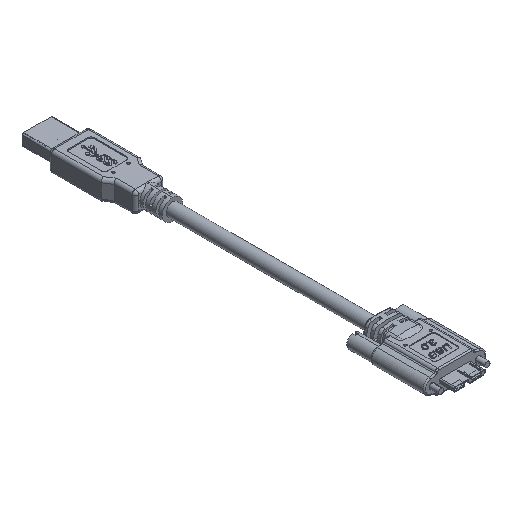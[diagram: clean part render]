
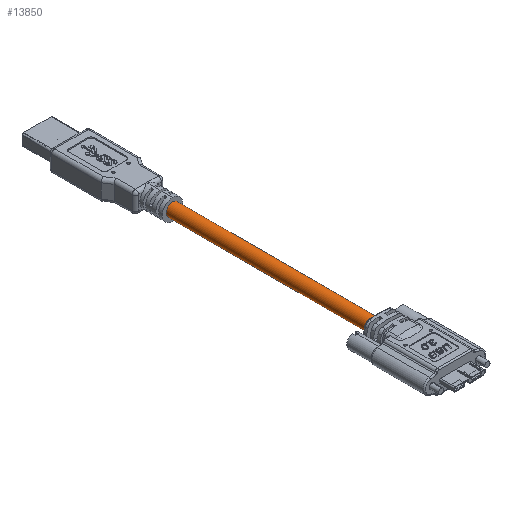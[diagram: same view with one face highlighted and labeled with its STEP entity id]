
A CAD part, isometric view. The second image highlights one B-rep face of the part: STEP entity #13850.
In plain terms, the highlighted cylindrical face has radius 2.5 mm (diameter 5 mm), a partial arc.
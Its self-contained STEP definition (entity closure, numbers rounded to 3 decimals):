
#433 = DIRECTION ( 'NONE',  ( 0., -1., 0. ) ) ;
#794 = DIRECTION ( 'NONE',  ( 0., 1., 0. ) ) ;
#1179 = FACE_OUTER_BOUND ( 'NONE', #9208, .T. ) ;
#1625 = CARTESIAN_POINT ( 'NONE',  ( 1.622, -40.6, 1.903 ) ) ;
#1685 = DIRECTION ( 'NONE',  ( 0., 1., 0. ) ) ;
#2240 = DIRECTION ( 'NONE',  ( 0., 1., 0. ) ) ;
#2630 = CARTESIAN_POINT ( 'NONE',  ( -1.622, -121.1, -1.903 ) ) ;
#3843 = AXIS2_PLACEMENT_3D ( 'NONE', #19827, #5731, #11703 ) ;
#5393 = EDGE_CURVE ( 'NONE', #7666, #18613, #16271, .T. ) ;
#5731 = DIRECTION ( 'NONE',  ( 0., -1., 0. ) ) ;
#6677 = CIRCLE ( 'NONE', #3843, 2.5 ) ;
#7412 = VERTEX_POINT ( 'NONE', #23749 ) ;
#7666 = VERTEX_POINT ( 'NONE', #2630 ) ;
#8103 = VECTOR ( 'NONE', #794, 1000. ) ;
#8226 = ORIENTED_EDGE ( 'NONE', *, *, #5393, .F. ) ;
#8265 = AXIS2_PLACEMENT_3D ( 'NONE', #12989, #1685, #9168 ) ;
#9168 = DIRECTION ( 'NONE',  ( -0.649, 0., -0.761 ) ) ;
#9208 = EDGE_LOOP ( 'NONE', ( #16748, #17791, #11625, #8226 ) ) ;
#9652 = EDGE_CURVE ( 'NONE', #7412, #18521, #15698, .T. ) ;
#11625 = ORIENTED_EDGE ( 'NONE', *, *, #18953, .T. ) ;
#11703 = DIRECTION ( 'NONE',  ( 0., 0., 1. ) ) ;
#12105 = CARTESIAN_POINT ( 'NONE',  ( 0., -40.6, 0. ) ) ;
#12197 = CIRCLE ( 'NONE', #19104, 2.5 ) ;
#12989 = CARTESIAN_POINT ( 'NONE',  ( 0., -130.6, 0. ) ) ;
#13850 = ADVANCED_FACE ( 'NONE', ( #1179 ), #17156, .T. ) ;
#15698 = LINE ( 'NONE', #20016, #15883 ) ;
#15883 = VECTOR ( 'NONE', #2240, 1000. ) ;
#16271 = LINE ( 'NONE', #17930, #8103 ) ;
#16335 = EDGE_CURVE ( 'NONE', #7412, #7666, #6677, .T. ) ;
#16748 = ORIENTED_EDGE ( 'NONE', *, *, #16335, .F. ) ;
#17156 = CYLINDRICAL_SURFACE ( 'NONE', #8265, 2.5 ) ;
#17791 = ORIENTED_EDGE ( 'NONE', *, *, #9652, .T. ) ;
#17812 = DIRECTION ( 'NONE',  ( 0., 0., -1. ) ) ;
#17930 = CARTESIAN_POINT ( 'NONE',  ( -1.622, -130.6, -1.903 ) ) ;
#18521 = VERTEX_POINT ( 'NONE', #1625 ) ;
#18613 = VERTEX_POINT ( 'NONE', #24728 ) ;
#18953 = EDGE_CURVE ( 'NONE', #18521, #18613, #12197, .T. ) ;
#19104 = AXIS2_PLACEMENT_3D ( 'NONE', #12105, #433, #17812 ) ;
#19827 = CARTESIAN_POINT ( 'NONE',  ( 0., -121.1, 0. ) ) ;
#20016 = CARTESIAN_POINT ( 'NONE',  ( 1.622, -130.6, 1.903 ) ) ;
#23749 = CARTESIAN_POINT ( 'NONE',  ( 1.622, -121.1, 1.903 ) ) ;
#24728 = CARTESIAN_POINT ( 'NONE',  ( -1.622, -40.6, -1.903 ) ) ;
